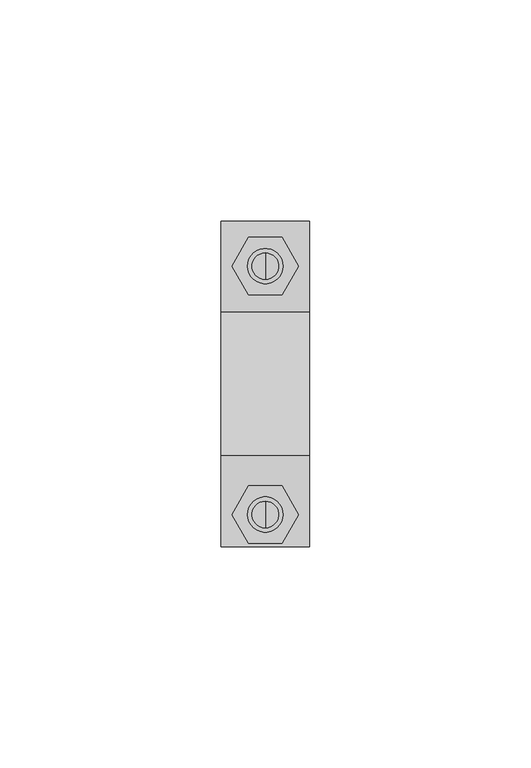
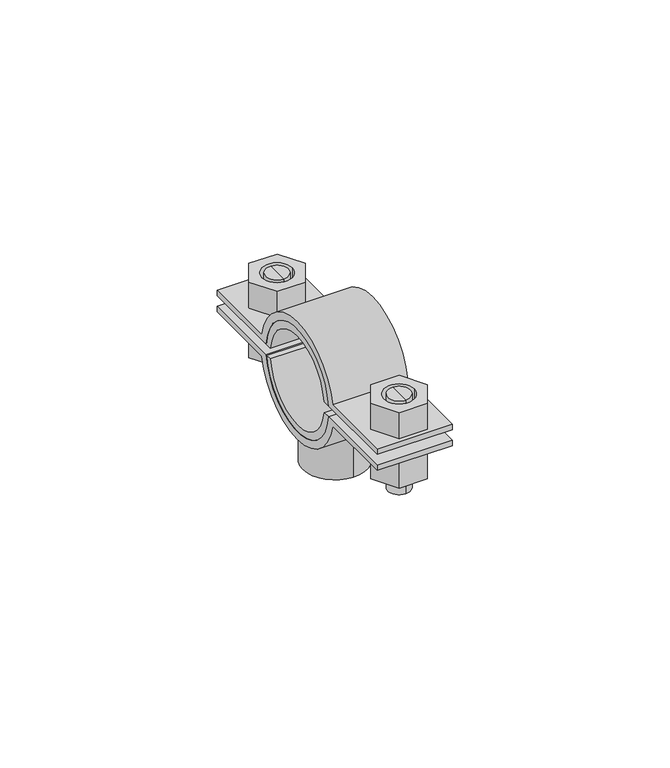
"""IFC4 building model written with IfcOpenShell, lengths in millimetres: valve geometry, Superfix DG2 Clamp Extra : Superfix DG2 Clamp Extra."""

from ifc_helpers import new_model, si_unit, point, frame, frame_2d, origin, origin_2d, place, context, project, spatial, polyline, circle_curve, trimmed, segment, composite_curve, outline, extrude, source, transform, mapped, element, save
from ifc_brep_helpers import plane_surface, cylinder_surface, advanced_brep


def valve_9317ca73(model_context):
    return source(origin(), model_context, "Body", "SolidModel", [
        advanced_brep(
        [(0.0, 29.625, 334.4), (0.0, 23.625, 334.4), (0.0, 23.625, 348.5), (0.0, 29.625, 348.5), (0.0, 26.625, 334.4)],
        [
            (0, 1, circle_curve(frame((0.0, 26.625, 334.4), z_axis=(0.0, 0.0, 1.0), x_axis=(0.0, 1.0, 0.0)), 3.0)),
            (1, 2),
            (2, 3, circle_curve(frame((0.0, 26.625, 348.5), z_axis=(0.0, 0.0, -1.0), x_axis=(0.0, 1.0, 0.0)), 3.0)),
            (3, 0),
            (1, 0, circle_curve(frame((0.0, 26.625, 334.4), z_axis=(0.0, 0.0, 1.0), x_axis=(0.0, 1.0, 0.0)), 3.0)),
            (3, 2, circle_curve(frame((0.0, 26.625, 348.5), z_axis=(0.0, 0.0, -1.0), x_axis=(0.0, 1.0, 0.0)), 3.0)),
            (0, 4),
            (4, 1),
        ],
        [
            cylinder_surface(frame((0.0, 26.625, 348.2806094), z_axis=(0.0, 0.0, 1.0), x_axis=(0.0, 1.0, 0.0)), 3.0),
            plane_surface(frame((0.0, 26.625, 334.4), z_axis=(0.0, 0.0, -1.0), x_axis=(0.0, 1.0, 0.0))),
            plane_surface(frame((13.75, -36.75, 348.5), z_axis=(0.0, 0.0, 1.0), x_axis=(-1.0, 0.0, 0.0))),
        ],
        [
            (0, [[1, 2, 3, 4]]),
            (0, [[5, -4, 6, -2]]),
            (1, [[-1, 7, 8]]),
            (1, [[-5, -8, -7]]),
            (2, [[-3, -6]]),
        ],
    ),
        advanced_brep(
        [(0.0, 23.625, 360.6), (0.0, 29.625, 360.6), (0.0, 29.625, 351.5), (0.0, 23.625, 351.5), (0.0, 26.625, 360.6)],
        [
            (0, 1, circle_curve(frame((0.0, 26.625, 360.6), z_axis=(0.0, 0.0, -1.0), x_axis=(0.0, 1.0, 0.0)), 3.0)),
            (1, 2),
            (2, 3, circle_curve(frame((0.0, 26.625, 351.5), z_axis=(0.0, 0.0, 1.0), x_axis=(0.0, 1.0, 0.0)), 3.0)),
            (3, 0),
            (1, 0, circle_curve(frame((0.0, 26.625, 360.6), z_axis=(0.0, 0.0, -1.0), x_axis=(0.0, 1.0, 0.0)), 3.0)),
            (3, 2, circle_curve(frame((0.0, 26.625, 351.5), z_axis=(0.0, 0.0, 1.0), x_axis=(0.0, 1.0, 0.0)), 3.0)),
            (0, 4),
            (4, 1),
        ],
        [
            cylinder_surface(frame((0.0, 26.625, 348.2806094), z_axis=(0.0, 0.0, 1.0), x_axis=(0.0, 1.0, 0.0)), 3.0),
            plane_surface(frame((0.0, 26.625, 360.6), z_axis=(0.0, 0.0, 1.0), x_axis=(0.0, 1.0, 0.0))),
            plane_surface(frame((13.75, 36.75, 351.5), z_axis=(0.0, 0.0, -1.0), x_axis=(-1.0, 0.0, 0.0))),
        ],
        [
            (0, [[1, 2, 3, 4]]),
            (0, [[5, -4, 6, -2]]),
            (1, [[-1, 7, 8]]),
            (1, [[-5, -8, -7]]),
            (2, [[-3, -6]]),
        ],
    ),
        advanced_brep(
        [(0.0, -32.5, 360.6), (0.0, -26.5, 360.6), (0.0, -26.5, 351.5), (0.0, -32.5, 351.5), (0.0, -29.5, 360.6)],
        [
            (0, 1, circle_curve(frame((0.0, -29.5, 360.6), z_axis=(0.0, 0.0, -1.0), x_axis=(0.0, -1.0, 0.0)), 3.0)),
            (1, 2),
            (2, 3, circle_curve(frame((0.0, -29.5, 351.5), z_axis=(0.0, 0.0, 1.0), x_axis=(0.0, -1.0, 0.0)), 3.0)),
            (3, 0),
            (1, 0, circle_curve(frame((0.0, -29.5, 360.6), z_axis=(0.0, 0.0, -1.0), x_axis=(0.0, -1.0, 0.0)), 3.0)),
            (3, 2, circle_curve(frame((0.0, -29.5, 351.5), z_axis=(0.0, 0.0, 1.0), x_axis=(0.0, -1.0, 0.0)), 3.0)),
            (0, 4),
            (4, 1),
        ],
        [
            cylinder_surface(frame((0.0, -29.5, 348.2806094), z_axis=(0.0, 0.0, -1.0), x_axis=(0.0, -1.0, 0.0)), 3.0),
            plane_surface(frame((0.0, -29.5, 360.6), z_axis=(0.0, 0.0, 1.0), x_axis=(0.0, -1.0, 0.0))),
            plane_surface(frame((13.75, 36.75, 351.5), z_axis=(0.0, 0.0, -1.0), x_axis=(-1.0, 0.0, 0.0))),
        ],
        [
            (0, [[1, 2, 3, 4]]),
            (0, [[5, -4, 6, -2]]),
            (1, [[-1, 7, 8]]),
            (1, [[-5, -8, -7]]),
            (2, [[-3, -6]]),
        ],
    ),
        advanced_brep(
        [(0.0, -26.5, 334.4), (0.0, -32.5, 334.4), (0.0, -32.5, 348.5), (0.0, -26.5, 348.5), (0.0, -29.5, 334.4)],
        [
            (0, 1, circle_curve(frame((0.0, -29.5, 334.4), z_axis=(0.0, 0.0, 1.0), x_axis=(0.0, -1.0, 0.0)), 3.0)),
            (1, 2),
            (2, 3, circle_curve(frame((0.0, -29.5, 348.5), z_axis=(0.0, 0.0, -1.0), x_axis=(0.0, -1.0, 0.0)), 3.0)),
            (3, 0),
            (1, 0, circle_curve(frame((0.0, -29.5, 334.4), z_axis=(0.0, 0.0, 1.0), x_axis=(0.0, -1.0, 0.0)), 3.0)),
            (3, 2, circle_curve(frame((0.0, -29.5, 348.5), z_axis=(0.0, 0.0, -1.0), x_axis=(0.0, -1.0, 0.0)), 3.0)),
            (0, 4),
            (4, 1),
        ],
        [
            cylinder_surface(frame((0.0, -29.5, 348.2806094), z_axis=(0.0, 0.0, -1.0), x_axis=(0.0, -1.0, 0.0)), 3.0),
            plane_surface(frame((0.0, -29.5, 334.4), z_axis=(0.0, 0.0, -1.0), x_axis=(0.0, -1.0, 0.0))),
            plane_surface(frame((13.75, -36.75, 348.5), z_axis=(0.0, 0.0, 1.0), x_axis=(-1.0, 0.0, 0.0))),
        ],
        [
            (0, [[1, 2, 3, 4]]),
            (0, [[5, -4, 6, -2]]),
            (1, [[-1, 7, 8]]),
            (1, [[-5, -8, -7]]),
            (2, [[-3, -6]]),
        ],
    ),
        extrude(outline(composite_curve([segment(trimmed(circle_curve(frame_2d((0.0, 350.0)), 14.5), [point((-14.4222051, 348.5))], [point((14.4222051, 348.5))], True, "CARTESIAN"), True, "CONTINUOUS"), segment(polyline([(14.4222051, 348.5), (36.75, 348.5), (36.75, 347.0), (16.2249807, 347.0)]), True, "CONTINUOUS"), segment(trimmed(circle_curve(frame_2d((0.0, 350.0)), 16.5), [point((16.2249807, 347.0))], [point((-16.2249807, 347.0))], False, "CARTESIAN"), True, "CONTINUOUS"), segment(polyline([(-16.2249807, 347.0), (-36.75, 347.0), (-36.75, 348.5), (-14.4222051, 348.5)]), True, "CONTINUOUS")], self_intersect=False)), frame((-10.0, 0.0, 0.0), z_axis=(1.0, 0.0, 0.0), x_axis=(0.0, 1.0, 0.0)), (0.0, 0.0, 1.0), 20.0),
        extrude(outline(composite_curve([segment(trimmed(circle_curve(frame_2d((0.0, 350.0)), 14.5), [point((14.4222051, 351.5))], [point((-14.4222051, 351.5))], True, "CARTESIAN"), True, "CONTINUOUS"), segment(polyline([(-14.4222051, 351.5), (-36.75, 351.5), (-36.75, 353.0), (-16.2249807, 353.0)]), True, "CONTINUOUS"), segment(trimmed(circle_curve(frame_2d((0.0, 350.0)), 16.5), [point((-16.2249807, 353.0))], [point((16.2249807, 353.0))], False, "CARTESIAN"), True, "CONTINUOUS"), segment(polyline([(16.2249807, 353.0), (36.75, 353.0), (36.75, 351.5), (14.4222051, 351.5)]), True, "CONTINUOUS")], self_intersect=False)), frame((-10.0, 0.0, 0.0), z_axis=(1.0, 0.0, 0.0), x_axis=(0.0, 1.0, 0.0)), (0.0, 0.0, 1.0), 20.0),
        extrude(outline(polyline([(7.5055535, -29.5), (3.7527767, -36.0), (-3.7527767, -36.0), (-7.5055535, -29.5), (-3.7527767, -23.0), (3.7527767, -23.0), (7.5055535, -29.5)]), holes=[composite_curve([segment(trimmed(circle_curve(frame_2d((0.0, -29.5)), 4.0), [point((4.0, -29.5))], [point((-4.0, -29.5))], True, "CARTESIAN"), True, "CONTINUOUS"), segment(trimmed(circle_curve(frame_2d((0.0, -29.5)), 4.0), [point((-4.0, -29.5))], [point((4.0, -29.5))], True, "CARTESIAN"), True, "CONTINUOUS")], self_intersect=False)]), frame((0.0, 0.0, 353.0), z_axis=(0.0, 0.0, 1.0), x_axis=(1.0, 0.0, 0.0)), (0.0, 0.0, 1.0), 7.6),
        extrude(outline(polyline([(7.5055535, 26.625), (3.7527767, 20.125), (-3.7527767, 20.125), (-7.5055535, 26.625), (-3.7527767, 33.125), (3.7527767, 33.125), (7.5055535, 26.625)]), holes=[composite_curve([segment(trimmed(circle_curve(frame_2d((0.0, 26.625)), 4.0), [point((4.0, 26.625))], [point((-4.0, 26.625))], True, "CARTESIAN"), True, "CONTINUOUS"), segment(trimmed(circle_curve(frame_2d((0.0, 26.625)), 4.0), [point((-4.0, 26.625))], [point((4.0, 26.625))], True, "CARTESIAN"), True, "CONTINUOUS")], self_intersect=False)]), frame((0.0, 0.0, 353.0), z_axis=(0.0, 0.0, 1.0), x_axis=(1.0, 0.0, 0.0)), (0.0, 0.0, 1.0), 7.6),
        extrude(outline(polyline([(7.5055535, -29.5), (3.7527767, -36.0), (-3.7527767, -36.0), (-7.5055535, -29.5), (-3.7527767, -23.0), (3.7527767, -23.0), (7.5055535, -29.5)]), holes=[composite_curve([segment(trimmed(circle_curve(frame_2d((0.0, -29.5)), 4.0), [point((4.0, -29.5))], [point((-4.0, -29.5))], True, "CARTESIAN"), True, "CONTINUOUS"), segment(trimmed(circle_curve(frame_2d((0.0, -29.5)), 4.0), [point((-4.0, -29.5))], [point((4.0, -29.5))], True, "CARTESIAN"), True, "CONTINUOUS")], self_intersect=False)]), frame((0.0, 0.0, 339.4), z_axis=(0.0, 0.0, 1.0), x_axis=(1.0, 0.0, 0.0)), (0.0, 0.0, 1.0), 7.6),
        extrude(outline(polyline([(7.5055535, 26.625), (3.7527767, 20.125), (-3.7527767, 20.125), (-7.5055535, 26.625), (-3.7527767, 33.125), (3.7527767, 33.125), (7.5055535, 26.625)]), holes=[composite_curve([segment(trimmed(circle_curve(frame_2d((0.0, 26.625)), 4.0), [point((4.0, 26.625))], [point((-4.0, 26.625))], True, "CARTESIAN"), True, "CONTINUOUS"), segment(trimmed(circle_curve(frame_2d((0.0, 26.625)), 4.0), [point((-4.0, 26.625))], [point((4.0, 26.625))], True, "CARTESIAN"), True, "CONTINUOUS")], self_intersect=False)]), frame((0.0, 0.0, 339.4), z_axis=(0.0, 0.0, 1.0), x_axis=(1.0, 0.0, 0.0)), (0.0, 0.0, 1.0), 7.6),
        extrude(outline(composite_curve([segment(trimmed(circle_curve(origin_2d(), 8.5), [point((0.0, 8.5))], [point((0.0, -8.5))], False, "CARTESIAN"), True, "CONTINUOUS"), segment(trimmed(circle_curve(origin_2d(), 8.5), [point((0.0, -8.5))], [point((0.0, 8.5))], False, "CARTESIAN"), True, "CONTINUOUS")], self_intersect=False), holes=[composite_curve([segment(trimmed(circle_curve(origin_2d(), 5.0), [point((0.0, 5.0))], [point((0.0, -5.0))], True, "CARTESIAN"), True, "CONTINUOUS"), segment(trimmed(circle_curve(origin_2d(), 5.0), [point((0.0, -5.0))], [point((0.0, 5.0))], True, "CARTESIAN"), True, "CONTINUOUS")], self_intersect=False)]), frame((0.0, 0.0, 324.5), z_axis=(0.0, 0.0, 1.0), x_axis=(1.0, 0.0, 0.0)), (0.0, 0.0, 1.0), 11.5),
        extrude(outline(composite_curve([segment(trimmed(circle_curve(frame_2d((0.0, 350.0)), 12.5), [point((12.4096736, 351.5))], [point((-12.4096736, 351.5))], True, "CARTESIAN"), True, "CONTINUOUS"), segment(polyline([(-12.4096736, 351.5), (-14.4222051, 351.5)]), True, "CONTINUOUS"), segment(trimmed(circle_curve(frame_2d((0.0, 350.0)), 14.5), [point((-14.4222051, 351.5))], [point((14.4222051, 351.5))], False, "CARTESIAN"), True, "CONTINUOUS"), segment(polyline([(14.4222051, 351.5), (12.4096736, 351.5)]), True, "CONTINUOUS")], self_intersect=False)), frame((-10.0, 0.0, 0.0), z_axis=(1.0, 0.0, 0.0), x_axis=(0.0, 1.0, 0.0)), (0.0, 0.0, 1.0), 20.0),
        extrude(outline(composite_curve([segment(polyline([(12.4096736, 348.5), (14.4222051, 348.5)]), True, "CONTINUOUS"), segment(trimmed(circle_curve(frame_2d((0.0, 350.0)), 14.5), [point((14.4222051, 348.5))], [point((-14.4222051, 348.5))], False, "CARTESIAN"), True, "CONTINUOUS"), segment(polyline([(-14.4222051, 348.5), (-12.4096736, 348.5)]), True, "CONTINUOUS"), segment(trimmed(circle_curve(frame_2d((0.0, 350.0)), 12.5), [point((-12.4096736, 348.5))], [point((12.4096736, 348.5))], True, "CARTESIAN"), True, "CONTINUOUS")], self_intersect=False)), frame((-10.0, 0.0, 0.0), z_axis=(1.0, 0.0, 0.0), x_axis=(0.0, 1.0, 0.0)), (0.0, 0.0, 1.0), 20.0),
    ])


if __name__ == "__main__":
    model = new_model("IFC4")
    model_context = context("Model", 3, world=origin())
    ifc_project = project(units=[si_unit("LENGTHUNIT", "METRE", prefix="MILLI")], contexts=[model_context])
    site = spatial("IfcSite", under=ifc_project)
    building = spatial("IfcBuilding", under=site)
    placement = place(None, origin())
    valve_shape = valve_9317ca73(model_context)
    element("IfcValve", 1, ObjectType="Superfix DG2 Clamp Extra : Superfix DG2 Clamp Extra", at=placement, inside=building, context=model_context, shape_type="MappedRepresentation", body=[
        mapped(valve_shape, transform((0.0, 0.0, 0.0), x_axis=(1.0, 0.0, 0.0), y_axis=(0.0, 1.0, 0.0), z_axis=(0.0, 0.0, 1.0))),
    ])
    save(model, "model.ifc")
